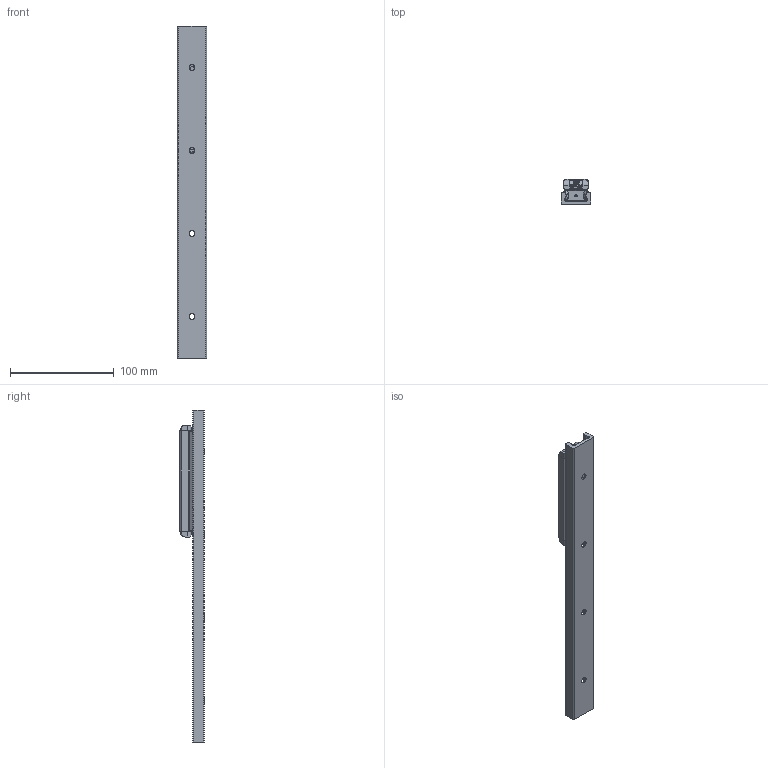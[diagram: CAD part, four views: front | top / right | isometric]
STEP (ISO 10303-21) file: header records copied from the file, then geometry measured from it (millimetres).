
FILE_DESCRIPTION( ( 'STEP AP214' ), '1' );
FILE_NAME( 'p:/temp/worker_26/temp/exporttempdir_4688_55_NTVcu/format_2/TGV-00320_1_RV28G-3.stp', '2020-11-20T15:14:27', ( 'License CC BY-ND 4.0' ), ( 'CADENAS' ), ' ', 'PARTsolutions', ' ' );
FILE_SCHEMA( ( 'AUTOMOTIVE_DESIGN { 1 0 10303 214 1 1 1 1 }' ) );
Length unit declared in the file: millimetre
Products named in the file (6): TGV-00320/1/RV28G-3; _TGV28-0320-(3-1); _RV28G-3-slider; _RGNV28R; _RGAV28R; _WR28G-01
Assembly tree (7 placements, depth 2):
  TGV-00320/1/RV28G-3
    _TGV28-0320-(3-1)
    _RV28G-3-slider
    _RGNV28R  x2
    _RGAV28R
    _WR28G-01  x2
Bounding box: 28 x 24 x 320 mm (x, y, z)
Volume: 82699.5 mm3; surface area: 50566.1 mm2
Topology: 7 solids, 7 shells, 1020 faces, 2665 edges, 1741 vertices
Faces by surface type: plane 657, cylinder 284, cone 44, bspline 26, torus 9
Full cylindrical faces by diameter (mm): 1.27 x4, 2 x2, 2.5 x6, 4 x4, 4.134 x4, 4.2 x3, 5 x3, 5.5 x3, 5.75 x4, 7 x5, 7.5 x1, 8 x6, 10.8 x3, 17 x3, 20.75 x6
Entity records: 24331 total; most frequent: CARTESIAN_POINT 3907, DIRECTION 3240, ORIENTED_EDGE 3018, EDGE_CURVE 1509, AXIS2_PLACEMENT_3D 1225, VERTEX_POINT 1041, EDGE_LOOP 815, LINE 790
